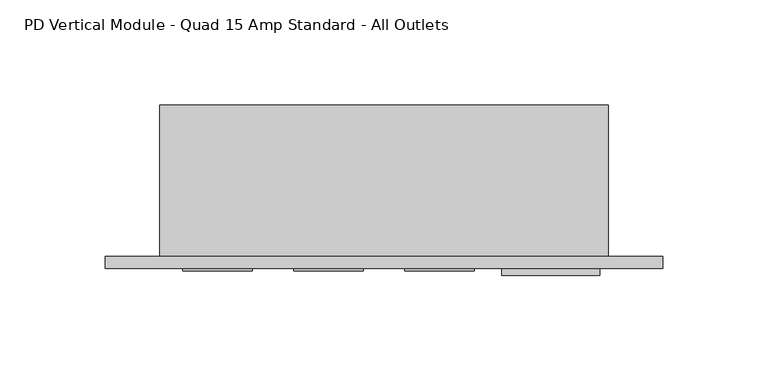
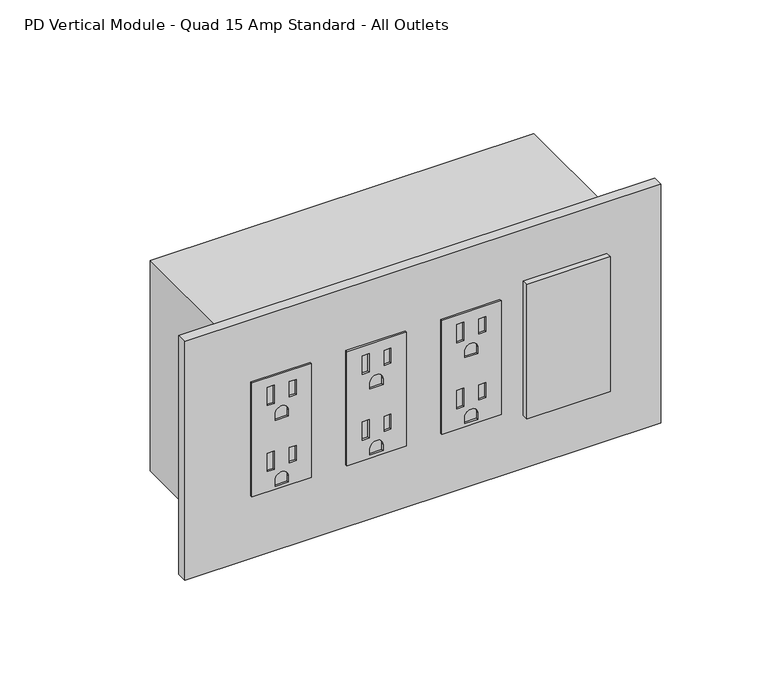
"""IFC4 building model written with IfcOpenShell, lengths in millimetres: proxy geometry, Electrical-Teknion-EPDMQ_Vertical_Power_Data_Quad-R2019 : PD Vertical Module - Quad 15 Amp Standard - All Outlets."""

from ifc_helpers import new_model, si_unit, point, frame, frame_2d, origin, place, context, project, spatial, polyline, circle_curve, trimmed, segment, composite_curve, outline, extrude, source, transform, mapped, element, save


def pd_vertical_module_quad_15_amp_standard_all_outlets_835c5be2(model_context):
    return source(origin(), model_context, "Body", "SweptSolid", [
        extrude(outline(polyline([(490.6772, 149.4282), (490.6772, 116.4336), (423.7228, 116.4336), (423.7228, 149.4282), (490.6772, 149.4282)]), holes=[polyline([(485.2924, 128.778), (474.472, 128.778), (474.472, 124.9426), (485.2924, 124.9426), (485.2924, 128.778)]), polyline([(484.3145, 140.9446), (475.4499, 140.9446), (475.4499, 137.1092), (484.3145, 137.1092), (484.3145, 140.9446)]), composite_curve([segment(polyline([(464.2866, 136.5631), (464.2866, 129.2987), (467.9188, 129.2987)]), True, "CONTINUOUS"), segment(trimmed(circle_curve(frame_2d((467.9188, 132.9309)), 3.6322), [point((467.9188, 129.2987))], [point((467.9188, 136.5631))], True, "CARTESIAN"), True, "CONTINUOUS"), segment(polyline([(467.9188, 136.5631), (464.2866, 136.5631)]), True, "CONTINUOUS")], self_intersect=False), polyline([(446.5574, 128.778), (435.737, 128.778), (435.737, 124.9426), (446.5574, 124.9426), (446.5574, 128.778)]), polyline([(445.5795, 140.9446), (436.7149, 140.9446), (436.7149, 137.1092), (445.5795, 137.1092), (445.5795, 140.9446)]), composite_curve([segment(polyline([(425.5516, 136.5631), (425.5516, 129.2987), (429.1838, 129.2987)]), True, "CONTINUOUS"), segment(trimmed(circle_curve(frame_2d((429.1838, 132.9309)), 3.6322), [point((429.1838, 129.2987))], [point((429.1838, 136.5631))], True, "CARTESIAN"), True, "CONTINUOUS"), segment(polyline([(429.1838, 136.5631), (425.5516, 136.5631)]), True, "CONTINUOUS")], self_intersect=False)]), frame((0.0, -6.9294746, 0.0), z_axis=(0.0, 1.0, 0.0), x_axis=(0.0, 0.0, 1.0)), (0.0, 0.0, 1.0), 1.0366746),
        extrude(outline(polyline([(490.6772, 96.7613), (490.6772, 63.7667), (423.7228, 63.7667), (423.7228, 96.7613), (490.6772, 96.7613)]), holes=[polyline([(485.2924, 76.1111), (474.472, 76.1111), (474.472, 72.2757), (485.2924, 72.2757), (485.2924, 76.1111)]), polyline([(484.3145, 88.2777), (475.4499, 88.2777), (475.4499, 84.4423), (484.3145, 84.4423), (484.3145, 88.2777)]), composite_curve([segment(polyline([(464.2866, 83.8962), (464.2866, 76.6318), (467.9188, 76.6318)]), True, "CONTINUOUS"), segment(trimmed(circle_curve(frame_2d((467.9188, 80.264)), 3.6322), [point((467.9188, 76.6318))], [point((467.9188, 83.8962))], True, "CARTESIAN"), True, "CONTINUOUS"), segment(polyline([(467.9188, 83.8962), (464.2866, 83.8962)]), True, "CONTINUOUS")], self_intersect=False), polyline([(446.5574, 76.1111), (435.737, 76.1111), (435.737, 72.2757), (446.5574, 72.2757), (446.5574, 76.1111)]), polyline([(445.5795, 88.2777), (436.7149, 88.2777), (436.7149, 84.4423), (445.5795, 84.4423), (445.5795, 88.2777)]), composite_curve([segment(polyline([(425.5516, 83.8962), (425.5516, 76.6318), (429.1838, 76.6318)]), True, "CONTINUOUS"), segment(trimmed(circle_curve(frame_2d((429.1838, 80.264)), 3.6322), [point((429.1838, 76.6318))], [point((429.1838, 83.8962))], True, "CARTESIAN"), True, "CONTINUOUS"), segment(polyline([(429.1838, 83.8962), (425.5516, 83.8962)]), True, "CONTINUOUS")], self_intersect=False)]), frame((0.0, -6.9294746, 0.0), z_axis=(0.0, 1.0, 0.0), x_axis=(0.0, 0.0, 1.0)), (0.0, 0.0, 1.0), 1.0366746),
        extrude(outline(polyline([(490.6772, 44.0944), (490.6772, 11.0998), (423.7228, 11.0998), (423.7228, 44.0944), (490.6772, 44.0944)]), holes=[polyline([(485.2924, 23.4442), (474.472, 23.4442), (474.472, 19.6088), (485.2924, 19.6088), (485.2924, 23.4442)]), polyline([(484.3145, 35.6108), (475.4499, 35.6108), (475.4499, 31.7754), (484.3145, 31.7754), (484.3145, 35.6108)]), composite_curve([segment(polyline([(464.2866, 31.2293), (464.2866, 23.9649), (467.9188, 23.9649)]), True, "CONTINUOUS"), segment(trimmed(circle_curve(frame_2d((467.9188, 27.5971)), 3.6322), [point((467.9188, 23.9649))], [point((467.9188, 31.2293))], True, "CARTESIAN"), True, "CONTINUOUS"), segment(polyline([(467.9188, 31.2293), (464.2866, 31.2293)]), True, "CONTINUOUS")], self_intersect=False), polyline([(446.5574, 23.4442), (435.737, 23.4442), (435.737, 19.6088), (446.5574, 19.6088), (446.5574, 23.4442)]), polyline([(445.5795, 35.6108), (436.7149, 35.6108), (436.7149, 31.7754), (445.5795, 31.7754), (445.5795, 35.6108)]), composite_curve([segment(polyline([(425.5516, 31.2293), (425.5516, 23.9649), (429.1838, 23.9649)]), True, "CONTINUOUS"), segment(trimmed(circle_curve(frame_2d((429.1838, 27.5971)), 3.6322), [point((429.1838, 23.9649))], [point((429.1838, 31.2293))], True, "CARTESIAN"), True, "CONTINUOUS"), segment(polyline([(429.1838, 31.2293), (425.5516, 31.2293)]), True, "CONTINUOUS")], self_intersect=False)]), frame((0.0, -6.9294746, 0.0), z_axis=(0.0, 1.0, 0.0), x_axis=(0.0, 0.0, 1.0)), (0.0, 0.0, 1.0), 1.0366746),
        extrude(outline(polyline([(162.3314, -5.8928), (208.8642, -5.8928), (208.8642, -9.0678), (162.3314, -9.0678), (162.3314, -5.8928)])), frame((0.0, 0.0, 417.9922742), z_axis=(0.0, 0.0, 1.0), x_axis=(1.0, 0.0, 0.0)), (0.0, 0.0, 1.0), 79.0448),
        extrude(outline(polyline([(-25.6794, 0.0), (238.7092, 0.0), (238.7092, -5.8928), (-25.6794, -5.8928), (-25.6794, 0.0)])), frame((0.0, 0.0, 387.0198), z_axis=(0.0, 0.0, 1.0), x_axis=(1.0, 0.0, 0.0)), (0.0, 0.0, 1.0), 140.3604),
        extrude(outline(polyline([(213.0298, 0.0), (0.0, 0.0), (0.0, 71.7296), (213.0298, 71.7296), (213.0298, 0.0)])), frame((0.0, 0.0, 395.4526), z_axis=(0.0, 0.0, 1.0), x_axis=(1.0, 0.0, 0.0)), (0.0, 0.0, 1.0), 123.4948),
    ])


if __name__ == "__main__":
    model = new_model("IFC4")
    model_context = context("Model", 3, world=origin())
    ifc_project = project(units=[si_unit("LENGTHUNIT", "METRE", prefix="MILLI")], contexts=[model_context])
    site = spatial("IfcSite", under=ifc_project)
    building = spatial("IfcBuilding", under=site)
    placement = place(None, origin())
    pd_vertical_module_quad_15_amp_standard_all_outlets_shape = pd_vertical_module_quad_15_amp_standard_all_outlets_835c5be2(model_context)
    element("IfcBuildingElementProxy", 1, Name="Electrical-Teknion-EPDMQ_Vertical_Power_Data_Quad-R2019 : PD Vertical Module - Quad 15 Amp Standard - All Outlets", ObjectType="Electrical-Teknion-EPDMQ_Vertical_Power_Data_Quad-R2019 : PD Vertical Module - Quad 15 Amp Standard - All Outlets", at=placement, inside=building, context=model_context, shape_type="MappedRepresentation", body=[
        mapped(pd_vertical_module_quad_15_amp_standard_all_outlets_shape, transform((0.0, 0.0, 0.0), x_axis=(1.0, 0.0, 0.0), y_axis=(0.0, 1.0, 0.0), z_axis=(0.0, 0.0, 1.0))),
    ])
    save(model, "model.ifc")
